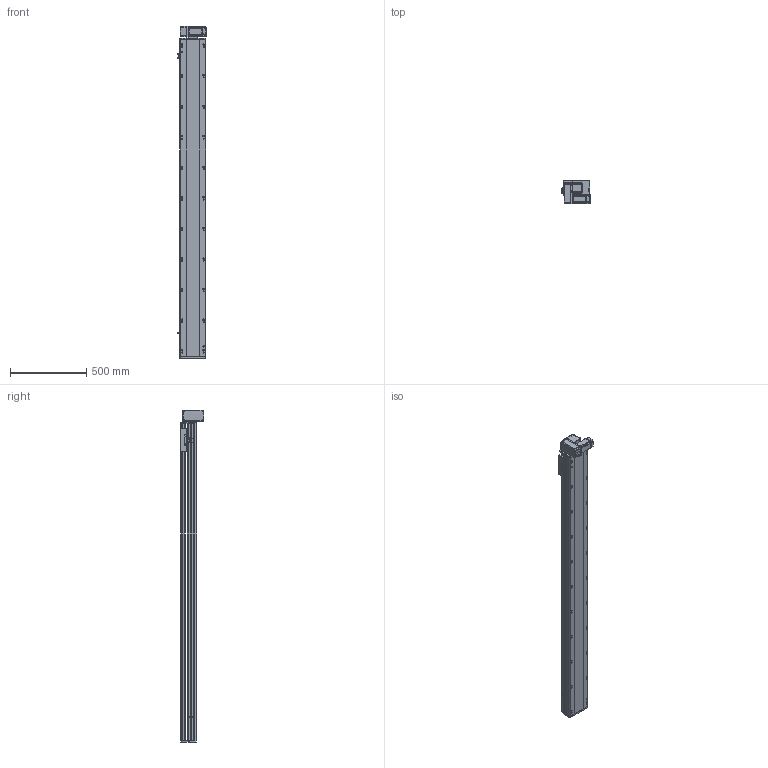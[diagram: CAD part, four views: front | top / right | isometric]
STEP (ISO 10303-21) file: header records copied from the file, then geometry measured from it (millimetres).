
FILE_DESCRIPTION (( 'STEP AP214' ), '1' );
FILE_NAME ('RTB17S-XX-1800-LM-M40-C4.STEP', '2025-12-11T06:31:13', ( '' ), ( '' ), 'SwSTEP 2.0', 'SolidWorks 2018', '' );
FILE_SCHEMA (( 'AUTOMOTIVE_DESIGN' ));
Length unit declared in the file: millimetre
Products named in the file (14): RTB14-L-005P--轴承塑胶压盖^RTB17S-LM-皮带座装配-400W_RTB17S-XX-XX-LM-M40-C4; RTB17S-L-001耜醱啣^RTB17S-XX-XX-LM-M40-C4; RTB14-L-017P^RTB17S-LM-々湍釱蚾饜-400W_RTB17S-XX-XX-LM-M40-C4; OMRON EE-SX672 传感器^RTB17S-XX-XX-LM-M40-C4; RMP17S-L-014-T20--々湍釱^RTB17S-LM-々湍釱蚾饜-400W_RTB17S-XX-XX-LM-M40-C4; RTB17S-L-004佪裝蹟譫蟀諉釱^RTB17S-XX-XX-LM-M40-C4; RTH13-BL-012覜茼え俋离^RTB17S-XX-XX-LM-M40-C4; RTB14-L-008-M20--萇儂啣^RTB17S-LM-々湍釱蚾饜-400W_RTB17S-XX-XX-LM-M40-C4; RTB17S-XX-1800-LM-M40-C4; RTB17S-LM-々湍釱蚾饜-400W^RTB17S-XX-XX-LM-M40-C4; 400W侜督萇儂^RTB17S-XX-XX-LM-M40-C4; RTB17S-L-007奻裔^RTB17S-XX-XX-LM-M40-C4; RTB17-R-011菁釱^RTB17S-XX-XX-LM-M40-C4; RTB14-L-018P^RTB17S-LM-々湍釱蚾饜-400W_RTB17S-XX-XX-LM-M40-C4
Assembly tree (16 placements, depth 3):
  RTB17S-XX-1800-LM-M40-C4
    RTB17-R-011菁釱^RTB17S-XX-XX-LM-M40-C4
    RTB17S-L-007奻裔^RTB17S-XX-XX-LM-M40-C4
    OMRON EE-SX672 传感器^RTB17S-XX-XX-LM-M40-C4  x3
    RTH13-BL-012覜茼え俋离^RTB17S-XX-XX-LM-M40-C4
    RTB17S-L-001耜醱啣^RTB17S-XX-XX-LM-M40-C4
    400W侜督萇儂^RTB17S-XX-XX-LM-M40-C4
    RTB17S-L-004佪裝蹟譫蟀諉釱^RTB17S-XX-XX-LM-M40-C4
    RTB17S-LM-々湍釱蚾饜-400W^RTB17S-XX-XX-LM-M40-C4
      RMP17S-L-014-T20--々湍釱^RTB17S-LM-々湍釱蚾饜-400W_RTB17S-XX-XX-LM-M40-C4
      RTB14-L-005P--轴承塑胶压盖^RTB17S-LM-皮带座装配-400W_RTB17S-XX-XX-LM-M40-C4
      RTB14-L-008-M20--萇儂啣^RTB17S-LM-々湍釱蚾饜-400W_RTB17S-XX-XX-LM-M40-C4
      RTB14-L-017P^RTB17S-LM-々湍釱蚾饜-400W_RTB17S-XX-XX-LM-M40-C4  x2
      RTB14-L-018P^RTB17S-LM-々湍釱蚾饜-400W_RTB17S-XX-XX-LM-M40-C4
Bounding box: 186 x 156.5 x 2172.5 mm (x, y, z)
Volume: 18900911 mm3; surface area: 2208598.6 mm2
Topology: 15 solids, 15 shells, 2269 faces, 6303 edges, 4113 vertices
Faces by surface type: plane 1076, cylinder 745, bspline 301, cone 139, torus 8
Entity records: 65705 total; most frequent: CARTESIAN_POINT 18508, ORIENTED_EDGE 9450, DIRECTION 8756, EDGE_CURVE 4725, VERTEX_POINT 3101, AXIS2_PLACEMENT_3D 3031, LINE 2694, VECTOR 2694
